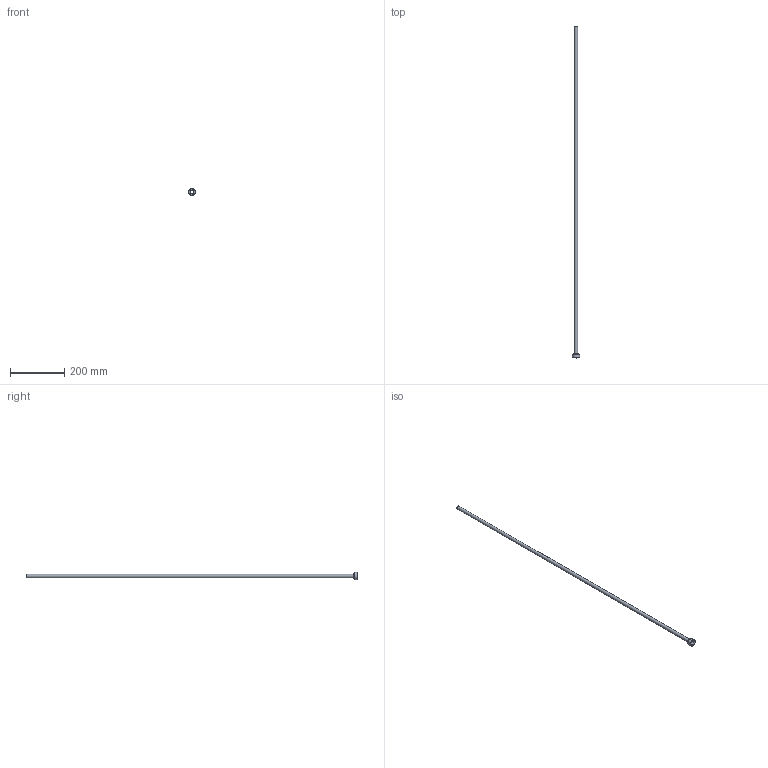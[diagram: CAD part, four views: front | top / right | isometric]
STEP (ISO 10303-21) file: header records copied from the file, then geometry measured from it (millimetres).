
FILE_DESCRIPTION(/* description */ (''),/* implementation_level */ '2;1');
FILE_NAME(/* name */ 'C:/Users/drich/Desktop/PT34-500-48 v1.step',/* time_stamp */ '2019-12-27T15:49:20-06:00',/* author */ (''),/* organization */ (''),/* preprocessor_version */ 'ST-DEVELOPER v18',/* originating_system */ 'Autodesk Translation Framework v8.12.0.6',/* authorisation */ '');
FILE_SCHEMA (('AUTOMOTIVE_DESIGN { 1 0 10303 214 3 1 1 }'));
Length unit declared in the file: inch
Products named in the file (1): PT34-500-48
Bounding box: 26.3 x 1219.2 x 26.3 mm (x, y, z)
Volume: 37711.9 mm3; surface area: 93429.6 mm2
Topology: 1 solids, 1 shells, 19 faces, 48 edges, 34 vertices
Faces by surface type: plane 11, cylinder 4, torus 2, cone 2
Full cylindrical faces by diameter (mm): 11.278 x1, 12.7 x1, 19.05 x1, 26.299 x1
Entity records: 633 total; most frequent: DIRECTION 112, CARTESIAN_POINT 102, ORIENTED_EDGE 96, EDGE_CURVE 48, AXIS2_PLACEMENT_3D 44, VERTEX_POINT 34, CIRCLE 24, EDGE_LOOP 24
